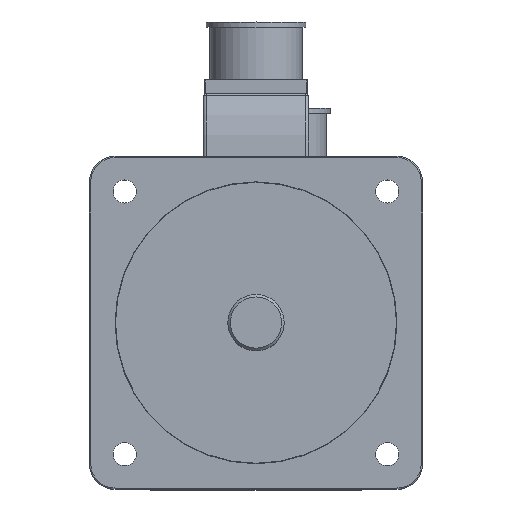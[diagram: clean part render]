
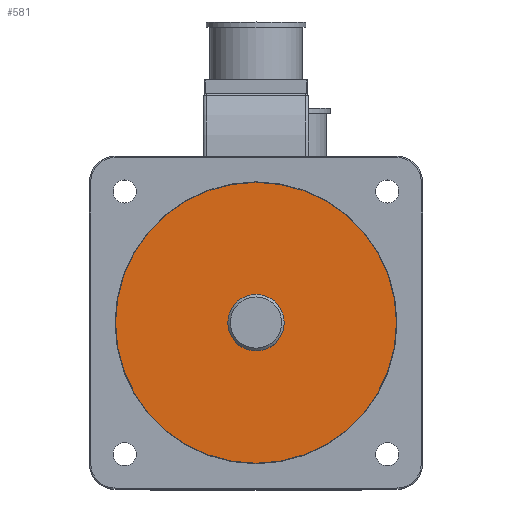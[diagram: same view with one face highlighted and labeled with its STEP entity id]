
A CAD part, top view. The second image highlights one B-rep face of the part: STEP entity #581.
In plain terms, the highlighted planar face has unit normal (0, 0, 1).
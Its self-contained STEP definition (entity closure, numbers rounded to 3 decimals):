
#581=ADVANCED_FACE('',(#1277,#1278),#858,.F.);
#858=PLANE('',#4520);
#976=CIRCLE('',#4512,11.);
#980=CIRCLE('',#4519,54.818);
#1277=FACE_BOUND('',#1344,.T.);
#1278=FACE_BOUND('',#1345,.T.);
#1344=EDGE_LOOP('',(#2329));
#1345=EDGE_LOOP('',(#2330));
#2329=ORIENTED_EDGE('',*,*,#3945,.T.);
#2330=ORIENTED_EDGE('',*,*,#3941,.F.);
#3570=VERTEX_POINT('',#6844);
#3574=VERTEX_POINT('',#6855);
#3941=EDGE_CURVE('',#3570,#3570,#976,.T.);
#3945=EDGE_CURVE('',#3574,#3574,#980,.T.);
#4512=AXIS2_PLACEMENT_3D('',#6843,#5264,#5265);
#4519=AXIS2_PLACEMENT_3D('',#6854,#5278,#5279);
#4520=AXIS2_PLACEMENT_3D('',#6856,#5280,#5281);
#5264=DIRECTION('',(0.,0.,1.));
#5265=DIRECTION('',(1.,0.,0.));
#5278=DIRECTION('',(0.,0.,1.));
#5279=DIRECTION('',(-1.,0.,0.));
#5280=DIRECTION('',(0.,0.,-1.));
#5281=DIRECTION('',(-1.,0.,0.));
#6843=CARTESIAN_POINT('',(0.,0.,0.));
#6844=CARTESIAN_POINT('',(11.,0.,0.));
#6854=CARTESIAN_POINT('',(0.,0.,0.));
#6855=CARTESIAN_POINT('',(-54.818,0.,0.));
#6856=CARTESIAN_POINT('',(0.,0.,0.));
